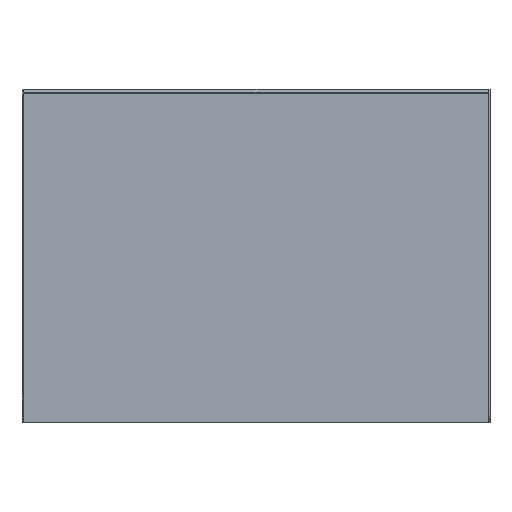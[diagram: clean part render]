
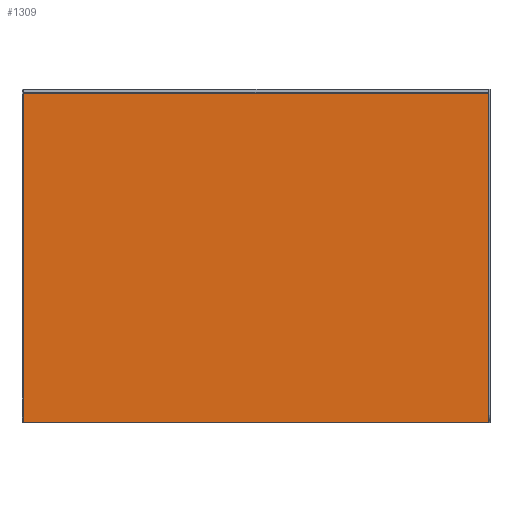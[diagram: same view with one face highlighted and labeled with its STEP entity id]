
A CAD part, front view. The second image highlights one B-rep face of the part: STEP entity #1309.
In plain terms, the highlighted planar face has unit normal (0, -1, 0).
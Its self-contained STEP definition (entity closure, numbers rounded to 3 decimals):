
#53 = CARTESIAN_POINT ( 'NONE',  ( -697., -17.5, -497. ) ) ;
#80 = VERTEX_POINT ( 'NONE', #1843 ) ;
#111 = CARTESIAN_POINT ( 'NONE',  ( 0., -17.5, 0. ) ) ;
#171 = CARTESIAN_POINT ( 'NONE',  ( 697., -17.5, -497. ) ) ;
#189 = AXIS2_PLACEMENT_3D ( 'NONE', #111, #821, #1016 ) ;
#230 = LINE ( 'NONE', #1231, #762 ) ;
#244 = PLANE ( 'NONE',  #189 ) ;
#257 = EDGE_CURVE ( 'NONE', #1045, #1697, #230, .T. ) ;
#294 = VECTOR ( 'NONE', #1498, 1000. ) ;
#375 = ORIENTED_EDGE ( 'NONE', *, *, #1639, .F. ) ;
#411 = ORIENTED_EDGE ( 'NONE', *, *, #746, .F. ) ;
#473 = VECTOR ( 'NONE', #1466, 1000. ) ;
#508 = ORIENTED_EDGE ( 'NONE', *, *, #257, .F. ) ;
#566 = CARTESIAN_POINT ( 'NONE',  ( -697., -17.5, 497. ) ) ;
#582 = VERTEX_POINT ( 'NONE', #171 ) ;
#661 = LINE ( 'NONE', #1247, #1079 ) ;
#671 = DIRECTION ( 'NONE',  ( 0., 0., -1. ) ) ;
#746 = EDGE_CURVE ( 'NONE', #80, #582, #661, .T. ) ;
#762 = VECTOR ( 'NONE', #1392, 1000. ) ;
#821 = DIRECTION ( 'NONE',  ( 0., -1., 0. ) ) ;
#833 = FACE_OUTER_BOUND ( 'NONE', #1563, .T. ) ;
#916 = ORIENTED_EDGE ( 'NONE', *, *, #1522, .F. ) ;
#1016 = DIRECTION ( 'NONE',  ( 0., 0., -1. ) ) ;
#1045 = VERTEX_POINT ( 'NONE', #1087 ) ;
#1079 = VECTOR ( 'NONE', #671, 1000. ) ;
#1087 = CARTESIAN_POINT ( 'NONE',  ( -697., -17.5, -497. ) ) ;
#1172 = CARTESIAN_POINT ( 'NONE',  ( -697., -17.5, 497. ) ) ;
#1231 = CARTESIAN_POINT ( 'NONE',  ( -697., -17.5, 497. ) ) ;
#1247 = CARTESIAN_POINT ( 'NONE',  ( 697., -17.5, 497. ) ) ;
#1309 = ADVANCED_FACE ( 'NONE', ( #833 ), #244, .T. ) ;
#1392 = DIRECTION ( 'NONE',  ( 0., 0., 1. ) ) ;
#1466 = DIRECTION ( 'NONE',  ( 1., 0., 0. ) ) ;
#1498 = DIRECTION ( 'NONE',  ( -1., 0., 0. ) ) ;
#1522 = EDGE_CURVE ( 'NONE', #582, #1045, #1640, .T. ) ;
#1563 = EDGE_LOOP ( 'NONE', ( #411, #375, #508, #916 ) ) ;
#1639 = EDGE_CURVE ( 'NONE', #1697, #80, #1871, .T. ) ;
#1640 = LINE ( 'NONE', #53, #294 ) ;
#1697 = VERTEX_POINT ( 'NONE', #1172 ) ;
#1843 = CARTESIAN_POINT ( 'NONE',  ( 697., -17.5, 497. ) ) ;
#1871 = LINE ( 'NONE', #566, #473 ) ;
